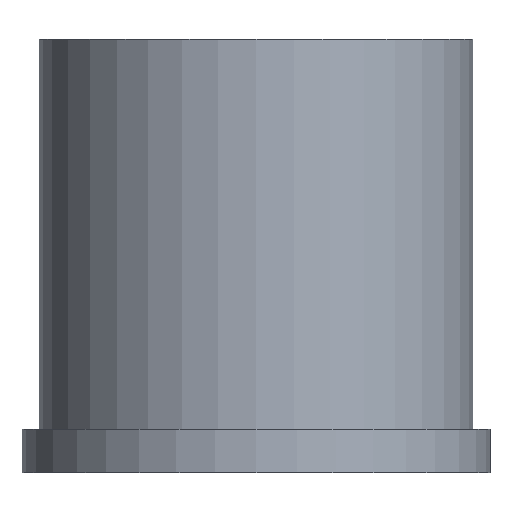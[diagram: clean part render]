
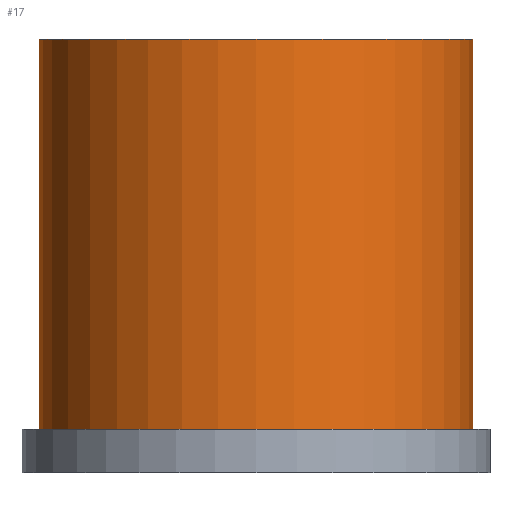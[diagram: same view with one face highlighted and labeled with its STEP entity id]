
A CAD part, front view. The second image highlights one B-rep face of the part: STEP entity #17.
In plain terms, the highlighted cylindrical face has radius 5 mm (diameter 10 mm), a full revolution.
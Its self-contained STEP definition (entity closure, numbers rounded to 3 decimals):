
#17 = ADVANCED_FACE('',(#18),#32,.T.);
#18 = FACE_BOUND('',#19,.T.);
#19 = EDGE_LOOP('',(#20,#50,#77,#78));
#20 = ORIENTED_EDGE('',*,*,#21,.T.);
#21 = EDGE_CURVE('',#22,#24,#26,.T.);
#22 = VERTEX_POINT('',#23);
#23 = CARTESIAN_POINT('',(5.,0.,1.));
#24 = VERTEX_POINT('',#25);
#25 = CARTESIAN_POINT('',(5.,0.,10.));
#26 = SEAM_CURVE('',#27,(#31,#43),.PCURVE_S1.);
#27 = LINE('',#28,#29);
#28 = CARTESIAN_POINT('',(5.,0.,0.));
#29 = VECTOR('',#30,1.);
#30 = DIRECTION('',(0.,0.,1.));
#31 = PCURVE('',#32,#37);
#32 = CYLINDRICAL_SURFACE('',#33,5.);
#33 = AXIS2_PLACEMENT_3D('',#34,#35,#36);
#34 = CARTESIAN_POINT('',(0.,0.,0.));
#35 = DIRECTION('',(0.,0.,1.));
#36 = DIRECTION('',(1.,0.,-0.));
#37 = DEFINITIONAL_REPRESENTATION('',(#38),#42);
#38 = LINE('',#39,#40);
#39 = CARTESIAN_POINT('',(6.283,-0.));
#40 = VECTOR('',#41,1.);
#41 = DIRECTION('',(0.,1.));
#42 = ( GEOMETRIC_REPRESENTATION_CONTEXT(2) 
PARAMETRIC_REPRESENTATION_CONTEXT() REPRESENTATION_CONTEXT('2D SPACE',''
  ) );
#43 = PCURVE('',#32,#44);
#44 = DEFINITIONAL_REPRESENTATION('',(#45),#49);
#45 = LINE('',#46,#47);
#46 = CARTESIAN_POINT('',(0.,-0.));
#47 = VECTOR('',#48,1.);
#48 = DIRECTION('',(0.,1.));
#49 = ( GEOMETRIC_REPRESENTATION_CONTEXT(2) 
PARAMETRIC_REPRESENTATION_CONTEXT() REPRESENTATION_CONTEXT('2D SPACE',''
  ) );
#50 = ORIENTED_EDGE('',*,*,#51,.F.);
#51 = EDGE_CURVE('',#24,#24,#52,.T.);
#52 = SURFACE_CURVE('',#53,(#58,#65),.PCURVE_S1.);
#53 = CIRCLE('',#54,5.);
#54 = AXIS2_PLACEMENT_3D('',#55,#56,#57);
#55 = CARTESIAN_POINT('',(0.,0.,10.));
#56 = DIRECTION('',(0.,0.,1.));
#57 = DIRECTION('',(1.,0.,-0.));
#58 = PCURVE('',#32,#59);
#59 = DEFINITIONAL_REPRESENTATION('',(#60),#64);
#60 = LINE('',#61,#62);
#61 = CARTESIAN_POINT('',(0.,10.));
#62 = VECTOR('',#63,1.);
#63 = DIRECTION('',(1.,0.));
#64 = ( GEOMETRIC_REPRESENTATION_CONTEXT(2) 
PARAMETRIC_REPRESENTATION_CONTEXT() REPRESENTATION_CONTEXT('2D SPACE',''
  ) );
#65 = PCURVE('',#66,#71);
#66 = PLANE('',#67);
#67 = AXIS2_PLACEMENT_3D('',#68,#69,#70);
#68 = CARTESIAN_POINT('',(0.,0.,10.));
#69 = DIRECTION('',(0.,0.,1.));
#70 = DIRECTION('',(1.,0.,-0.));
#71 = DEFINITIONAL_REPRESENTATION('',(#72),#76);
#72 = CIRCLE('',#73,5.);
#73 = AXIS2_PLACEMENT_2D('',#74,#75);
#74 = CARTESIAN_POINT('',(0.,0.));
#75 = DIRECTION('',(1.,0.));
#76 = ( GEOMETRIC_REPRESENTATION_CONTEXT(2) 
PARAMETRIC_REPRESENTATION_CONTEXT() REPRESENTATION_CONTEXT('2D SPACE',''
  ) );
#77 = ORIENTED_EDGE('',*,*,#21,.F.);
#78 = ORIENTED_EDGE('',*,*,#79,.T.);
#79 = EDGE_CURVE('',#22,#22,#80,.T.);
#80 = SURFACE_CURVE('',#81,(#86,#93),.PCURVE_S1.);
#81 = CIRCLE('',#82,5.);
#82 = AXIS2_PLACEMENT_3D('',#83,#84,#85);
#83 = CARTESIAN_POINT('',(0.,0.,1.));
#84 = DIRECTION('',(0.,0.,1.));
#85 = DIRECTION('',(1.,0.,-0.));
#86 = PCURVE('',#32,#87);
#87 = DEFINITIONAL_REPRESENTATION('',(#88),#92);
#88 = LINE('',#89,#90);
#89 = CARTESIAN_POINT('',(0.,1.));
#90 = VECTOR('',#91,1.);
#91 = DIRECTION('',(1.,0.));
#92 = ( GEOMETRIC_REPRESENTATION_CONTEXT(2) 
PARAMETRIC_REPRESENTATION_CONTEXT() REPRESENTATION_CONTEXT('2D SPACE',''
  ) );
#93 = PCURVE('',#94,#99);
#94 = PLANE('',#95);
#95 = AXIS2_PLACEMENT_3D('',#96,#97,#98);
#96 = CARTESIAN_POINT('',(0.,0.,1.));
#97 = DIRECTION('',(0.,0.,1.));
#98 = DIRECTION('',(1.,0.,-0.));
#99 = DEFINITIONAL_REPRESENTATION('',(#100),#104);
#100 = CIRCLE('',#101,5.);
#101 = AXIS2_PLACEMENT_2D('',#102,#103);
#102 = CARTESIAN_POINT('',(0.,0.));
#103 = DIRECTION('',(1.,0.));
#104 = ( GEOMETRIC_REPRESENTATION_CONTEXT(2) 
PARAMETRIC_REPRESENTATION_CONTEXT() REPRESENTATION_CONTEXT('2D SPACE',''
  ) );
